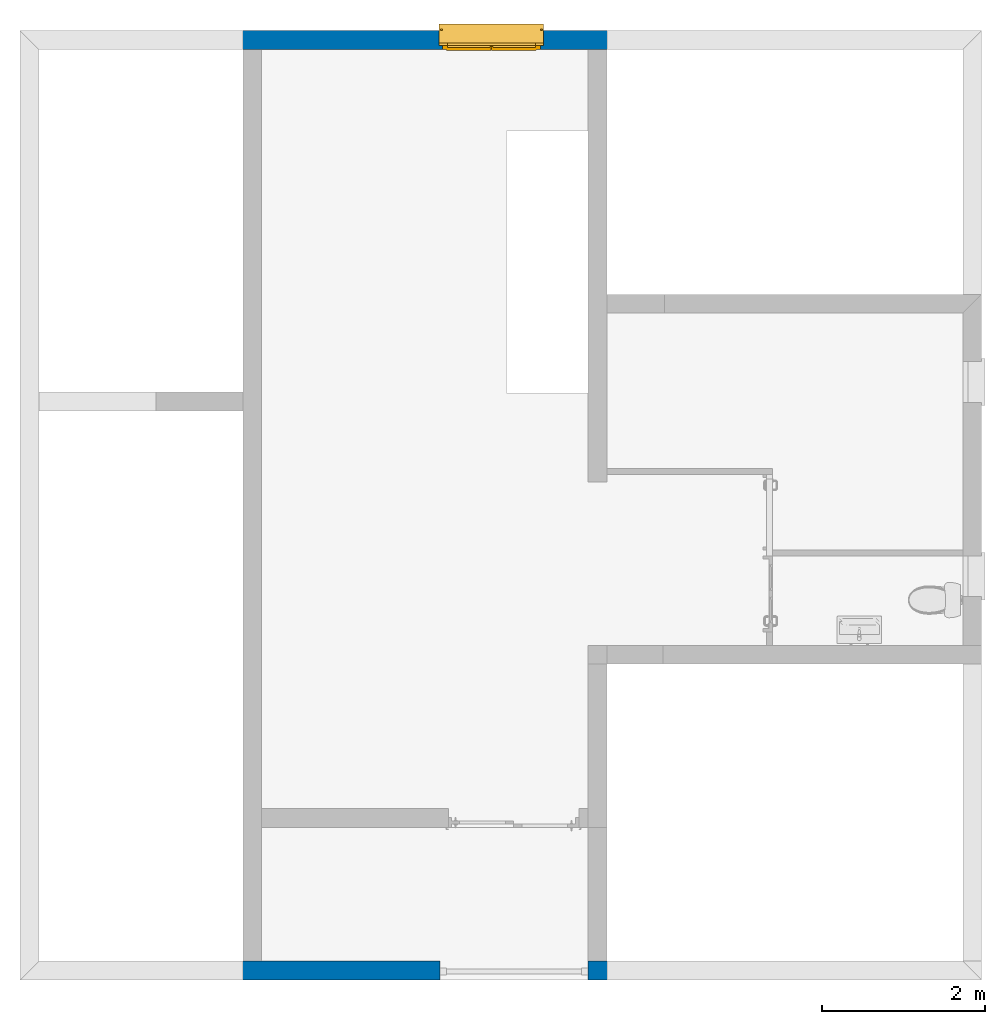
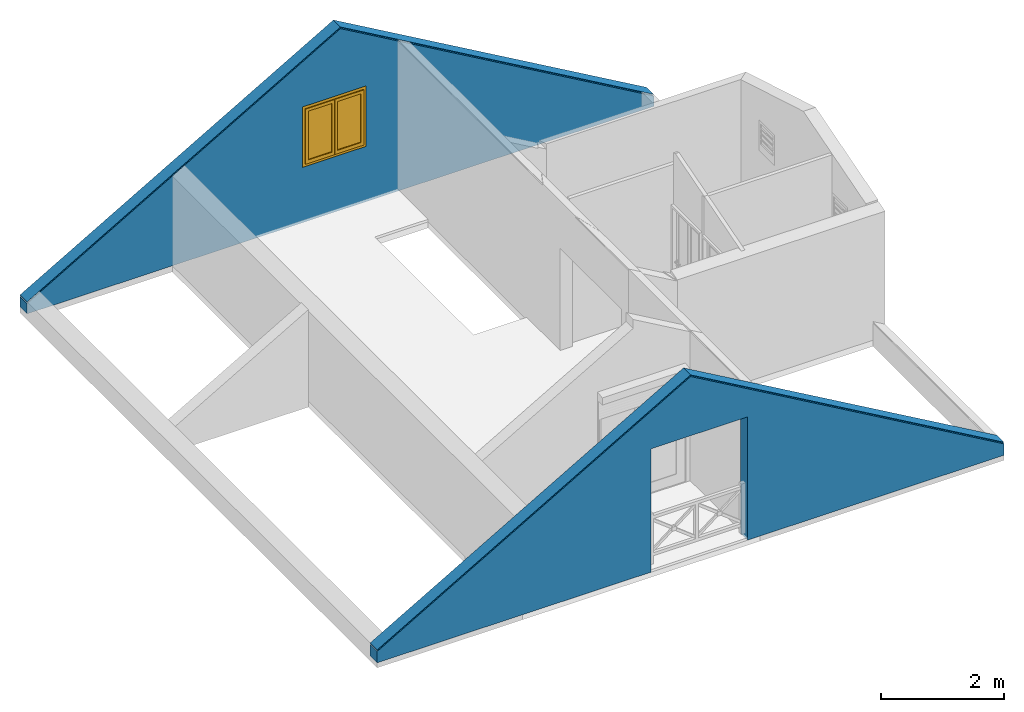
# One storey, part 3 of 8: 2 walls, 1 window, 2 openings.
"""IFC2X3 building model written with IfcOpenShell, lengths in metres."""

from ifc_helpers import new_model, entity, si_unit, converted_unit, derived_unit, money_unit, direction, frame, origin_with_axes, origin_2d_with_axis, place, context, subcontext, project, spatial, polyline, rectangle, outline, extrude, boolean, clip, bounded_halfspace, faceted_brep, source, transform, mapped, material, type_object, element, fill, save


model = new_model("IFC2X3")

# Units and contexts
model_context = context("Model", 3, precision=1e-05, world=origin_with_axes(), true_north=direction((0.0, 1.0)))
body_context = subcontext(model_context, "Body", "Model", "MODEL_VIEW")
ifc_project = project(units=[si_unit("LENGTHUNIT", "METRE"), si_unit("AREAUNIT", "SQUARE_METRE"), si_unit("VOLUMEUNIT", "CUBIC_METRE"), converted_unit("PLANEANGLEUNIT", "DEGREE", entity("IfcPlaneAngleMeasure", 0.0174532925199), si_unit("PLANEANGLEUNIT", "RADIAN"), dimensions=[0, 0, 0, 0, 0, 0, 0]), si_unit("SOLIDANGLEUNIT", "STERADIAN"), money_unit("CHF"), converted_unit("TIMEUNIT", "Year", entity("IfcTimeMeasure", 31556926.0), si_unit("TIMEUNIT", "SECOND"), dimensions=[0, 0, 1, 0, 0, 0, 0]), si_unit("MASSUNIT", "GRAM", prefix="KILO"), si_unit("THERMODYNAMICTEMPERATUREUNIT", "DEGREE_CELSIUS"), si_unit("LUMINOUSINTENSITYUNIT", "LUMEN"), si_unit("ENERGYUNIT", "JOULE", prefix="MEGA"), derived_unit("THERMALCONDUCTANCEUNIT", [(si_unit("POWERUNIT", "WATT"), 1), (si_unit("LENGTHUNIT", "METRE"), -1), (si_unit("THERMODYNAMICTEMPERATUREUNIT", "KELVIN"), -1)]), derived_unit("SPECIFICHEATCAPACITYUNIT", [(si_unit("ENERGYUNIT", "JOULE"), 1), (si_unit("MASSUNIT", "GRAM", prefix="KILO"), -1), (si_unit("THERMODYNAMICTEMPERATUREUNIT", "KELVIN"), -1)]), derived_unit("MASSDENSITYUNIT", [(si_unit("MASSUNIT", "GRAM", prefix="KILO"), 1), (si_unit("VOLUMEUNIT", "CUBIC_METRE"), -1)])], contexts=[model_context])

# Site, building, storey
site_placement = place(None, origin_with_axes())
site = spatial("IfcSite", under=ifc_project, at=site_placement, Name="Site", CompositionType="ELEMENT")
building_placement = place(site_placement, origin_with_axes())
building = spatial("IfcBuilding", under=site, at=building_placement, Name="Bâtiment", CompositionType="ELEMENT")
storey_placement = place(building_placement, frame((0.0, 0.0, 6.0), z_axis=(0.0, 0.0, 1.0), x_axis=(1.0, 0.0, 0.0)))
storey = spatial("IfcBuildingStorey", under=building, at=storey_placement, Name="COMBLES", CompositionType="ELEMENT", Elevation=6.0)

# Wall, opening
ifc_material = material(Name="Hachure solide 2628782308")
wall_type = type_object("IfcWallType", Name="Hachure solide 2628782308 230", PredefinedType="NOTDEFINED")
wall_1_placement = place(storey_placement, frame((84.7835190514, 7.18034105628, -3.39), z_axis=(0.0, 0.0, 1.0), x_axis=(1.0, 0.0, 0.0)))
wall_1 = element("IfcWall", 1, at=wall_1_placement, inside=storey, type_object=wall_type, material=ifc_material, Name="MurExt-011", context=body_context, shape_type="CSG", body=[
    boolean("DIFFERENCE", boolean("DIFFERENCE", boolean("DIFFERENCE", clip(clip(extrude(outline(polyline([(0.0, 0.0), (11.78, 0.0), (11.78, 0.23), (0.0, 0.23), (0.0, 0.0)])), origin_with_axes(), (0.0, 0.0, 1.0), 4.0), bounded_halfspace(frame((3.05706185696, 0.0, 5.29498645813), z_axis=(-0.5, 0.0, -0.866025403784), x_axis=(0.0, 1.0, 0.0)), True, origin_with_axes(), polyline([(5.88999999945, -0.01), (12.0600099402, -0.01), (12.0600099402, 0.24), (5.88999999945, 0.24), (5.88999999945, -0.01)]))), bounded_halfspace(frame((-0.112061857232, 0.0, 0.194096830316), z_axis=(0.5, 0.0, -0.866025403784), x_axis=(0.0, 1.0, 0.0)), True, origin_with_axes(), polyline([(-0.28001000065, -0.01), (5.88999999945, -0.01), (5.88999999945, 0.24), (-0.28001000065, 0.24), (-0.28001000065, -0.01)]))), faceted_brep([(5.145, 0.23, 0.0), (5.145, 0.23, 0.05), (6.96, 0.23, 0.05), (6.96, 0.23, 0.0), (5.145, 0.0, 0.0), (5.145, 0.0, 0.05), (6.96, 0.0, 0.05), (6.96, 0.0, 0.0)], [[[0, 1, 2, 3]], [[1, 0, 4, 5]], [[2, 1, 5, 6]], [[3, 2, 6, 7]], [[4, 0, 3, 7]], [[5, 4, 7, 6]]])), faceted_brep([(0.0, 0.23, 0.249406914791), (5.88999999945, 0.23, 3.65), (11.78, 0.23, 0.249406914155), (11.78, 0.23, 0.226312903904), (5.88999999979, 0.23, 3.62690598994), (0.0, 0.23, 0.22631290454), (0.0, 0.0, 0.249406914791), (5.88999999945, 0.0, 3.65), (11.78, 0.0, 0.249406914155), (11.78, 0.0, 0.226312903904), (5.88999999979, 0.0, 3.62690598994), (0.0, 0.0, 0.22631290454)], [[[0, 1, 2, 3, 4, 5]], [[1, 0, 6, 7]], [[8, 2, 1, 7]], [[2, 8, 9, 3]], [[4, 3, 9, 10]], [[5, 4, 10, 11]], [[6, 0, 5, 11]], [[7, 6, 11, 10, 9, 8]]])), faceted_brep([(11.78, 0.0, 0.258795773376), (11.78, 0.23, 0.258795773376), (11.78, 0.23, 0.270342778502), (11.78, 0.0, 0.270342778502), (5.88999999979, 0.23, 3.65938885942), (5.88999999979, 0.0, 3.65938885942), (0.0, 0.23, 0.258795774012), (0.0, 0.23, 0.270342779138), (5.71519509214, 0.23, 3.57001220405), (5.71519509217, 0.23, 3.57578570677), (5.88999999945, 0.23, 3.67670936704), (6.06480490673, 0.23, 3.57578570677), (6.06480490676, 0.23, 3.57001220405), (6.06456085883, 0.0, 3.57015310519), (6.0645608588, 0.0, 3.5759266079), (5.88999999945, 0.0, 3.67670936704), (5.7154391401, 0.0, 3.5759266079), (5.71543914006, 0.0, 3.57015310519), (0.0, 0.0, 0.270342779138), (0.0, 0.0, 0.258795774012)], [[[0, 1, 2, 3]], [[4, 1, 0, 5]], [[4, 6, 7, 8, 9, 10, 11, 12, 2, 1]], [[3, 2, 12, 13]], [[5, 0, 3, 13, 14, 15, 16, 17, 18, 19]], [[6, 4, 5, 19]], [[6, 19, 18, 7]], [[18, 17, 8, 7]], [[17, 16, 9, 8]], [[10, 9, 16, 15]], [[11, 10, 15, 14]], [[12, 11, 14, 13]]])),
])
opening_1_placement = place(wall_1_placement, frame((6.0525, 0.0, 0.05), z_axis=(0.0, 0.0, 1.0), x_axis=(1.0, 0.0, 0.0)))
element("IfcOpeningElement", 2, at=opening_1_placement, cuts=wall_1, Name="Por-057", context=body_context, shape_type="SweptSolid", body=[
    extrude(rectangle(XDim=1.815, YDim=2.4, at=origin_2d_with_axis()), frame((0.0, -0.23, 1.2), z_axis=(0.0, -1.0, 0.0), x_axis=(1.0, 0.0, 0.0)), (0.0, 0.0, -1.0), 0.69),
])

# Wall, opening, window
wall_2_placement = place(storey_placement, frame((96.5635190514, 18.8103410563, -3.37), z_axis=(0.0, 0.0, 1.0), x_axis=(-1.0, 0.0, 0.0)))
wall_2 = element("IfcWall", 3, at=wall_2_placement, inside=storey, type_object=wall_type, material=ifc_material, Name="MurExt-013", context=body_context, shape_type="CSG", body=[
    boolean("DIFFERENCE", boolean("DIFFERENCE", clip(clip(extrude(outline(polyline([(0.0, 0.0), (11.78, 0.0), (11.78, 0.23), (0.0, 0.23), (0.0, 0.0)])), origin_with_axes(), (0.0, 0.0, 1.0), 4.0), bounded_halfspace(frame((-0.103401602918, 0.0, 0.179096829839), z_axis=(0.5, 0.0, -0.866025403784), x_axis=(0.0, 1.0, 0.0)), True, origin_with_axes(), polyline([(-0.28000991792, -0.01), (5.89000000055, -0.01), (5.89000000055, 0.24), (-0.28000991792, 0.24), (-0.28000991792, -0.01)]))), bounded_halfspace(frame((3.04840160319, 0.0, 5.27998645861), z_axis=(-0.5, 0.0, -0.866025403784), x_axis=(0.0, 1.0, 0.0)), True, origin_with_axes(), polyline([(5.89000000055, -0.01), (12.0600100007, -0.01), (12.0600100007, 0.24), (5.89000000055, 0.24), (5.89000000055, -0.01)]))), faceted_brep([(11.78, 0.0, 0.229406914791), (5.89000000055, 0.0, 3.63), (0.0, 0.0, 0.229406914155), (0.0, 0.0, 0.206312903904), (5.89000000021, 0.0, 3.60690598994), (11.78, 0.0, 0.20631290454), (11.78, 0.23, 0.229406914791), (5.89000000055, 0.23, 3.63), (0.0, 0.23, 0.229406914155), (0.0, 0.23, 0.206312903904), (5.89000000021, 0.23, 3.60690598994), (11.78, 0.23, 0.20631290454)], [[[0, 1, 2, 3, 4, 5]], [[1, 0, 6, 7]], [[8, 2, 1, 7]], [[2, 8, 9, 3]], [[4, 3, 9, 10]], [[5, 4, 10, 11]], [[6, 0, 5, 11]], [[7, 6, 11, 10, 9, 8]]])), faceted_brep([(0.0, 0.23, 0.238795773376), (0.0, 0.0, 0.238795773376), (0.0, 0.0, 0.250342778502), (0.0, 0.23, 0.250342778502), (5.89000000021, 0.0, 3.63938885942), (5.89000000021, 0.23, 3.63938885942), (11.78, 0.0, 0.238795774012), (11.78, 0.0, 0.250342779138), (6.07690119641, 0.0, 3.54302840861), (6.07690119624, 0.0, 3.54880191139), (5.89000000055, 0.0, 3.65670936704), (5.70309880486, 0.0, 3.54880191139), (5.70309880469, 0.0, 3.54302840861), (5.70334285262, 0.23, 3.54316930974), (5.70334285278, 0.23, 3.54894281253), (5.89000000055, 0.23, 3.65670936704), (6.07665714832, 0.23, 3.54894281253), (6.07665714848, 0.23, 3.54316930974), (11.78, 0.23, 0.250342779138), (11.78, 0.23, 0.238795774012)], [[[0, 1, 2, 3]], [[4, 1, 0, 5]], [[4, 6, 7, 8, 9, 10, 11, 12, 2, 1]], [[3, 2, 12, 13]], [[5, 0, 3, 13, 14, 15, 16, 17, 18, 19]], [[6, 4, 5, 19]], [[6, 19, 18, 7]], [[18, 17, 8, 7]], [[17, 16, 9, 8]], [[10, 9, 16, 15]], [[11, 10, 15, 14]], [[12, 11, 14, 13]]])),
])
opening_2_placement = place(wall_2_placement, frame((6.005, 0.0, 1.1), z_axis=(0.0, 0.0, 1.0), x_axis=(1.0, 0.0, 0.0)))
opening_2 = element("IfcOpeningElement", 4, at=opening_2_placement, cuts=wall_2, Name="Fen-010", context=body_context, shape_type="SweptSolid", body=[
    extrude(outline(polyline([(0.6, 0.0), (-0.6, 0.0), (-0.6, -0.9), (0.0, 0.0), (0.6, -0.9), (0.6, 0.0)])), frame((0.0, 0.23, 0.0), z_axis=(0.0, -1.0, 0.0), x_axis=(-1.0, 0.0, 0.0)), (0.0, 0.0, 1.0), 0.46),
    extrude(outline(polyline([(-0.6, -1.2), (0.6, -1.2), (0.6, 0.0), (-0.6, 0.0), (-0.6, -1.2)])), frame((0.0, 0.23, 0.0), z_axis=(0.0, -1.0, 0.0), x_axis=(-1.0, 0.0, 0.0)), (0.0, 0.0, 1.0), 0.46),
    extrude(outline(polyline([(0.6, -0.1), (0.6, 0.001), (-0.6, 0.001), (-0.6, -0.1), (0.6, -0.1)])), frame((0.0, 0.18, 0.0), z_axis=(0.0, 1.0, 0.0), x_axis=(-1.0, 0.0, 0.0)), (0.0, 0.0, -1.0), 0.23),
])
window_style = type_object("IfcWindowStyle", Name="Fenêtre 2v", ConstructionType="NOTDEFINED", OperationType="NOTDEFINED", ParameterTakesPrecedence=False, Sizeable=False)
shared_shape = source(origin_with_axes(), body_context, "Body", "Brep", [
    faceted_brep([(-0.6, -0.23, 0.0), (-0.6, -0.18, 0.0), (-0.54, -0.18, 0.0), (-0.54, -0.23, 0.0), (-0.6, -0.23, 1.2), (-0.6, -0.18, 1.2), (0.6, -0.18, 1.2), (0.6, -0.18, 0.0), (0.54, -0.18, 0.0), (0.54, -0.18, 1.14), (-0.54, -0.18, 1.14), (-0.54, -0.23, 1.14), (0.54, -0.23, 1.14), (0.54, -0.23, 0.0), (0.6, -0.23, 0.0), (0.6, -0.23, 1.2)], [[[0, 1, 2, 3]], [[4, 5, 1, 0]], [[1, 5, 6, 7, 8, 9, 10, 2]], [[3, 2, 10, 11]], [[0, 3, 11, 12, 13, 14, 15, 4]], [[15, 6, 5, 4]], [[14, 7, 6, 15]], [[13, 8, 7, 14]], [[12, 9, 8, 13]], [[11, 10, 9, 12]]]),
    faceted_brep([(0.54, -0.23, 0.0), (0.54, -0.18, 0.0), (0.54, -0.18, 0.06), (0.54, -0.23, 0.06), (-0.54, -0.23, 0.0), (-0.54, -0.18, 0.0), (-0.54, -0.18, 0.06), (-0.54, -0.23, 0.06)], [[[0, 1, 2, 3]], [[4, 5, 1, 0]], [[1, 5, 6, 2]], [[3, 2, 6, 7]], [[0, 3, 7, 4]], [[7, 6, 5, 4]]]),
    faceted_brep([(0.54, -0.15, 0.0), (0.54, -0.15, 0.02), (0.54, -0.18, 0.04), (0.54, -0.18, 0.0), (-0.54, -0.15, 0.0), (-0.54, -0.15, 0.02), (-0.54, -0.18, 0.04), (-0.54, -0.18, 0.0)], [[[0, 1, 2, 3]], [[4, 5, 1, 0]], [[1, 5, 6, 2]], [[3, 2, 6, 7]], [[0, 3, 7, 4]], [[7, 6, 5, 4]]]),
    faceted_brep([(-0.05, -0.2275, 0.12), (-0.05, -0.2275, 1.0899), (-0.49, -0.2275, 1.0899), (-0.49, -0.2275, 0.12), (-0.05, -0.2225, 1.0899), (-0.05, -0.2225, 0.12), (-0.49, -0.2225, 1.0899), (-0.49, -0.2225, 0.12)], [[[0, 1, 2, 3]], [[4, 1, 0, 5]], [[1, 4, 6, 2]], [[6, 7, 3, 2]], [[5, 0, 3, 7]], [[4, 5, 7, 6]]]),
    faceted_brep([(0.05, -0.2225, 1.0899), (0.05, -0.2275, 1.0899), (0.49, -0.2275, 1.0899), (0.49, -0.2225, 1.0899), (0.05, -0.2275, 0.12), (0.05, -0.2225, 0.12), (0.49, -0.2275, 0.12), (0.49, -0.2225, 0.12)], [[[0, 1, 2, 3]], [[4, 1, 0, 5]], [[1, 4, 6, 2]], [[7, 3, 2, 6]], [[5, 0, 3, 7]], [[4, 5, 7, 6]]]),
    faceted_brep([(0.05, -0.245, 1.091), (0.05, -0.245, 1.0899), (0.49, -0.245, 1.0899), (0.49, -0.245, 0.12), (0.548, -0.245, 0.12), (0.548, -0.245, 1.1479), (-0.548, -0.245, 1.1479), (-0.548, -0.245, 0.12), (-0.49, -0.245, 0.12), (-0.49, -0.245, 1.0899), (-0.05, -0.245, 1.0899), (-0.05, -0.245, 1.091), (-0.0025, -0.245, 1.091), (-0.0025, -0.245, 1.14), (0.0025, -0.245, 1.14), (0.0025, -0.245, 1.091), (0.05, -0.205, 1.091), (0.05, -0.205, 1.0899), (0.49, -0.205, 1.0899), (0.49, -0.205, 0.12), (0.54, -0.205, 0.12), (0.54, -0.23, 0.12), (0.55, -0.23, 0.12), (0.55, -0.23, 1.1499), (-0.55, -0.23, 1.1499), (-0.55, -0.23, 0.12), (-0.54, -0.205, 0.12), (-0.49, -0.205, 0.12), (-0.54, -0.23, 0.12), (-0.49, -0.205, 1.0899), (-0.05, -0.205, 1.0899), (-0.05, -0.205, 1.091), (-0.0025, -0.205, 1.091), (-0.0025, -0.205, 1.1399), (-0.0025, -0.23, 1.1399), (-0.0025, -0.23, 1.14), (0.0025, -0.23, 1.14), (0.0025, -0.205, 1.091), (0.0025, -0.23, 1.1399), (0.0025, -0.205, 1.1399), (0.54, -0.205, 1.1399), (0.54, -0.23, 1.1399), (-0.54, -0.23, 1.1399), (-0.54, -0.205, 1.1399)], [[[0, 1, 2, 3, 4, 5, 6, 7, 8, 9, 10, 11, 12, 13, 14, 15]], [[1, 0, 16, 17]], [[1, 17, 18, 2]], [[18, 19, 3, 2]], [[20, 21, 22, 4, 3, 19]], [[5, 4, 22, 23]], [[6, 5, 23, 24]], [[7, 6, 24, 25]], [[26, 27, 8, 7, 25, 28]], [[27, 29, 9, 8]], [[30, 10, 9, 29]], [[11, 10, 30, 31]], [[32, 12, 11, 31]], [[12, 32, 33, 34, 35, 13]], [[13, 35, 36, 14]], [[37, 15, 14, 36, 38, 39]], [[0, 15, 37, 16]], [[16, 37, 39, 40, 20, 19, 18, 17]], [[41, 21, 20, 40]], [[41, 38, 36, 35, 34, 42, 28, 25, 24, 23, 22, 21]], [[31, 30, 29, 27, 26, 43, 33, 32]], [[28, 42, 43, 26]], [[33, 43, 42, 34]], [[38, 41, 40, 39]]]),
    faceted_brep([(0.54, -0.23, 0.12), (0.54, -0.245, 0.12), (0.548, -0.245, 0.12), (0.55, -0.23, 0.12), (0.54, -0.245, 0.06), (0.54, -0.23, 0.06), (0.0025, -0.245, 0.06), (0.0025, -0.245, 0.052), (0.548, -0.245, 0.052), (0.55, -0.23, 0.05), (0.0025, -0.23, 0.05), (0.0025, -0.23, 0.06)], [[[0, 1, 2, 3]], [[4, 1, 0, 5]], [[4, 6, 7, 8, 2, 1]], [[2, 8, 9, 3]], [[5, 0, 3, 9, 10, 11]], [[6, 4, 5, 11]], [[6, 11, 10, 7]], [[10, 9, 8, 7]]]),
    faceted_brep([(-0.0025, -0.23, 0.06), (-0.0025, -0.245, 0.06), (-0.0025, -0.245, 0.052), (-0.0025, -0.23, 0.05), (-0.54, -0.245, 0.06), (-0.54, -0.23, 0.06), (-0.54, -0.245, 0.12), (-0.548, -0.245, 0.12), (-0.548, -0.245, 0.052), (-0.55, -0.23, 0.05), (-0.55, -0.23, 0.12), (-0.54, -0.23, 0.12)], [[[0, 1, 2, 3]], [[4, 1, 0, 5]], [[4, 6, 7, 8, 2, 1]], [[2, 8, 9, 3]], [[5, 0, 3, 9, 10, 11]], [[11, 6, 4, 5]], [[6, 11, 10, 7]], [[8, 7, 10, 9]]]),
    faceted_brep([(0.05, -0.205, 0.12), (0.05, -0.245, 0.12), (0.49, -0.245, 0.12), (0.49, -0.205, 0.12), (0.05, -0.245, 0.119), (0.05, -0.205, 0.119), (0.0025, -0.245, 0.119), (0.0025, -0.245, 0.06), (0.54, -0.245, 0.06), (0.54, -0.245, 0.12), (0.54, -0.205, 0.12), (0.54, -0.205, 0.06), (0.0025, -0.205, 0.06), (0.0025, -0.205, 0.119)], [[[0, 1, 2, 3]], [[4, 1, 0, 5]], [[4, 6, 7, 8, 9, 2, 1]], [[3, 2, 9, 10]], [[5, 0, 3, 10, 11, 12, 13]], [[6, 4, 5, 13]], [[6, 13, 12, 7]], [[12, 11, 8, 7]], [[10, 9, 8, 11]]]),
    faceted_brep([(-0.0025, -0.205, 0.119), (-0.0025, -0.245, 0.119), (-0.0025, -0.245, 0.06), (-0.0025, -0.205, 0.06), (-0.05, -0.245, 0.119), (-0.05, -0.205, 0.119), (-0.05, -0.245, 0.12), (-0.49, -0.245, 0.12), (-0.54, -0.245, 0.12), (-0.54, -0.245, 0.06), (-0.54, -0.205, 0.06), (-0.54, -0.205, 0.12), (-0.49, -0.205, 0.12), (-0.05, -0.205, 0.12)], [[[0, 1, 2, 3]], [[4, 1, 0, 5]], [[4, 6, 7, 8, 9, 2, 1]], [[2, 9, 10, 3]], [[5, 0, 3, 10, 11, 12, 13]], [[13, 6, 4, 5]], [[6, 13, 12, 11, 8, 7]], [[10, 9, 8, 11]]]),
    faceted_brep([(-0.0025, -0.245, 0.119), (-0.0025, -0.245, 1.091), (-0.05, -0.245, 1.091), (-0.05, -0.245, 0.119), (-0.0025, -0.205, 1.091), (-0.0025, -0.205, 0.119), (-0.05, -0.205, 1.091), (-0.05, -0.205, 0.119)], [[[0, 1, 2, 3]], [[4, 1, 0, 5]], [[1, 4, 6, 2]], [[6, 7, 3, 2]], [[5, 0, 3, 7]], [[4, 5, 7, 6]]]),
    faceted_brep([(0.0025, -0.205, 1.091), (0.0025, -0.245, 1.091), (0.05, -0.245, 1.091), (0.05, -0.205, 1.091), (0.0025, -0.245, 0.119), (0.0025, -0.205, 0.119), (0.05, -0.245, 0.119), (0.05, -0.205, 0.119)], [[[0, 1, 2, 3]], [[4, 1, 0, 5]], [[1, 4, 6, 2]], [[7, 3, 2, 6]], [[5, 0, 3, 7]], [[4, 5, 7, 6]]]),
    faceted_brep([(-0.0166666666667, -0.205, 0.06), (-0.0166666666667, -0.195, 0.06), (0.0166666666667, -0.195, 0.06), (0.0166666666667, -0.205, 0.06), (-0.0166666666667, -0.205, 1.14), (-0.0166666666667, -0.195, 1.14), (0.0166666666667, -0.195, 1.14), (0.0166666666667, -0.205, 1.14)], [[[0, 1, 2, 3]], [[4, 5, 1, 0]], [[1, 5, 6, 2]], [[3, 2, 6, 7]], [[0, 3, 7, 4]], [[7, 6, 5, 4]]]),
    faceted_brep([(-0.64, -0.18, -0.1), (0.64, -0.18, -0.1), (0.64, -0.18, 0.0), (-0.64, -0.18, 0.0), (-0.64, 0.06, -0.1), (0.64, 0.06, -0.1), (0.64, 0.06, -0.094), (0.64, 0.07, -0.094), (0.64, 0.07, -0.1), (0.64, 0.08, -0.1), (0.64, 0.08, -0.06), (0.64, -0.13, -0.02), (0.64, -0.134126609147, -0.0188422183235), (0.64, -0.13799671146, -0.0170005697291), (0.64, -0.141497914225, -0.014528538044), (0.64, -0.144528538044, -0.0114979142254), (0.64, -0.147000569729, -0.00799671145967), (0.64, -0.148842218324, -0.00412660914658), (0.64, -0.15, 0.0), (-0.64, -0.15, 0.0), (-0.64, -0.148842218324, -0.00412660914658), (-0.64, -0.147000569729, -0.00799671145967), (-0.64, -0.144528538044, -0.0114979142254), (-0.64, -0.141497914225, -0.014528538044), (-0.64, -0.13799671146, -0.0170005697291), (-0.64, -0.134126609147, -0.0188422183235), (-0.64, -0.13, -0.02), (-0.64, 0.08, -0.06), (-0.64, 0.08, -0.1), (-0.64, 0.07, -0.1), (-0.64, 0.07, -0.094), (-0.64, 0.06, -0.094)], [[[0, 1, 2, 3]], [[4, 5, 1, 0]], [[1, 5, 6, 7, 8, 9, 10, 11, 12, 13, 14, 15, 16, 17, 18, 2]], [[3, 2, 18, 19]], [[0, 3, 19, 20, 21, 22, 23, 24, 25, 26, 27, 28, 29, 30, 31, 4]], [[31, 6, 5, 4]], [[30, 7, 6, 31]], [[29, 8, 7, 30]], [[28, 9, 8, 29]], [[27, 10, 9, 28]], [[26, 11, 10, 27]], [[25, 12, 11, 26]], [[24, 13, 12, 25]], [[23, 14, 13, 24]], [[22, 15, 14, 23]], [[21, 16, 15, 22]], [[20, 17, 16, 21]], [[19, 18, 17, 20]]]),
    faceted_brep([(0.625, 0.0, 1.35), (0.622, 0.0, 1.35), (0.622, 0.0, 1.2), (0.625, 0.0, 1.2), (0.625, 0.13, 1.33862647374), (0.622, 0.13, 1.33862647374), (0.622, 0.13, 1.18), (0.622, 0.127, 1.18), (0.622, 0.021, 1.18), (0.622, 0.021, 1.2), (0.625, 0.021, 1.2), (0.625, 0.021, 1.18), (0.625, 0.127, 1.18), (0.625, 0.13, 1.18)], [[[0, 1, 2, 3]], [[4, 5, 1, 0]], [[1, 5, 6, 7, 8, 9, 2]], [[3, 2, 9, 10]], [[0, 3, 10, 11, 12, 13, 4]], [[13, 6, 5, 4]], [[12, 7, 6, 13]], [[11, 8, 7, 12]], [[10, 9, 8, 11]]]),
    faceted_brep([(-0.622, 0.018, 1.203), (0.622, 0.018, 1.203), (0.622, 0.127, 1.203), (-0.622, 0.127, 1.203), (0.622, 0.018, 1.2), (-0.622, 0.018, 1.2), (0.622, 0.127, 1.2), (0.622, 0.127, 1.18), (0.622, 0.13, 1.18), (0.622, 0.13, 1.33862647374), (0.622, 0.0, 1.35), (0.622, 0.0, 1.34698854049), (0.622, 0.127, 1.33587748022), (-0.622, 0.127, 1.33587748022), (-0.622, 0.0, 1.34698854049), (-0.622, 0.0, 1.35), (-0.622, 0.13, 1.33862647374), (-0.622, 0.13, 1.18), (-0.622, 0.127, 1.18), (-0.622, 0.127, 1.2)], [[[0, 1, 2, 3]], [[4, 1, 0, 5]], [[1, 4, 6, 7, 8, 9, 10, 11, 12, 2]], [[12, 13, 3, 2]], [[5, 0, 3, 13, 14, 15, 16, 17, 18, 19]], [[4, 5, 19, 6]], [[18, 7, 6, 19]], [[17, 8, 7, 18]], [[16, 9, 8, 17]], [[15, 10, 9, 16]], [[11, 10, 15, 14]], [[11, 14, 13, 12]]]),
    faceted_brep([(-0.622, 0.0, 1.35), (-0.625, 0.0, 1.35), (-0.625, 0.0, 1.2), (-0.622, 0.0, 1.2), (-0.622, 0.13, 1.33862647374), (-0.625, 0.13, 1.33862647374), (-0.625, 0.13, 1.18), (-0.625, 0.127, 1.18), (-0.625, 0.021, 1.18), (-0.625, 0.021, 1.2), (-0.622, 0.021, 1.2), (-0.622, 0.021, 1.18), (-0.622, 0.127, 1.18), (-0.622, 0.13, 1.18)], [[[0, 1, 2, 3]], [[4, 5, 1, 0]], [[1, 5, 6, 7, 8, 9, 2]], [[3, 2, 9, 10]], [[0, 3, 10, 11, 12, 13, 4]], [[13, 6, 5, 4]], [[12, 7, 6, 13]], [[11, 8, 7, 12]], [[10, 9, 8, 11]]]),
    faceted_brep([(0.6, 0.021, 1.18), (0.625, 0.021, 1.18), (0.625, 0.021, 0.0), (0.6, 0.021, 0.0), (0.6, 0.018, 1.18), (0.622, 0.018, 1.18), (0.622, 0.003, 1.18), (0.6, 0.003, 1.18), (0.6, 0.0, 1.18), (0.625, 0.0, 1.18), (0.625, 0.0, 0.0), (0.6, 0.0, 0.0), (0.6, 0.003, 0.0), (0.622, 0.003, 0.0), (0.622, 0.018, 0.0), (0.6, 0.018, 0.0)], [[[0, 1, 2, 3]], [[0, 4, 5, 6, 7, 8, 9, 1]], [[1, 9, 10, 2]], [[3, 2, 10, 11, 12, 13, 14, 15]], [[4, 0, 3, 15]], [[5, 4, 15, 14]], [[6, 5, 14, 13]], [[7, 6, 13, 12]], [[8, 7, 12, 11]], [[9, 8, 11, 10]]]),
    faceted_brep([(0.6, 0.003, 0.003), (0.6, 0.018, 0.003), (0.6, 0.018, 0.0), (0.6, 0.003, 0.0), (0.622, 0.003, 0.003), (0.622, 0.018, 0.003), (0.622, 0.018, 0.0), (0.622, 0.003, 0.0)], [[[0, 1, 2, 3]], [[0, 4, 5, 1]], [[1, 5, 6, 2]], [[3, 2, 6, 7]], [[4, 0, 3, 7]], [[5, 4, 7, 6]]]),
    faceted_brep([(0.6, 0.021, 1.2), (0.625, 0.021, 1.2), (0.625, 0.021, 1.18), (0.6, 0.021, 1.18), (0.6, 0.018, 1.2), (0.622, 0.018, 1.2), (0.622, 0.003, 1.2), (0.6, 0.003, 1.2), (0.6, 0.0, 1.2), (0.625, 0.0, 1.2), (0.625, 0.0, 1.18), (0.6, 0.0, 1.18), (0.6, 0.003, 1.18), (0.622, 0.003, 1.18), (0.622, 0.018, 1.18), (0.6, 0.018, 1.18)], [[[0, 1, 2, 3]], [[0, 4, 5, 6, 7, 8, 9, 1]], [[1, 9, 10, 2]], [[3, 2, 10, 11, 12, 13, 14, 15]], [[4, 0, 3, 15]], [[5, 4, 15, 14]], [[6, 5, 14, 13]], [[7, 6, 13, 12]], [[8, 7, 12, 11]], [[9, 8, 11, 10]]]),
    faceted_brep([(-0.6, 0.021, 1.18), (-0.6, 0.021, 0.0), (-0.625, 0.021, 0.0), (-0.625, 0.021, 1.18), (-0.6, 0.018, 1.18), (-0.6, 0.018, 0.0), (-0.622, 0.018, 0.0), (-0.622, 0.003, 0.0), (-0.6, 0.003, 0.0), (-0.6, 0.0, 0.0), (-0.625, 0.0, 0.0), (-0.625, 0.0, 1.18), (-0.6, 0.0, 1.18), (-0.6, 0.003, 1.18), (-0.622, 0.003, 1.18), (-0.622, 0.018, 1.18)], [[[0, 1, 2, 3]], [[4, 5, 1, 0]], [[1, 5, 6, 7, 8, 9, 10, 2]], [[3, 2, 10, 11]], [[0, 3, 11, 12, 13, 14, 15, 4]], [[15, 6, 5, 4]], [[14, 7, 6, 15]], [[13, 8, 7, 14]], [[12, 9, 8, 13]], [[11, 10, 9, 12]]]),
    faceted_brep([(-0.6, 0.003, 0.003), (-0.6, 0.003, 0.0), (-0.6, 0.018, 0.0), (-0.6, 0.018, 0.003), (-0.622, 0.003, 0.003), (-0.622, 0.003, 0.0), (-0.622, 0.018, 0.0), (-0.622, 0.018, 0.003)], [[[0, 1, 2, 3]], [[4, 5, 1, 0]], [[1, 5, 6, 2]], [[3, 2, 6, 7]], [[0, 3, 7, 4]], [[7, 6, 5, 4]]]),
    faceted_brep([(-0.6, 0.021, 1.2), (-0.6, 0.021, 1.18), (-0.625, 0.021, 1.18), (-0.625, 0.021, 1.2), (-0.6, 0.018, 1.2), (-0.6, 0.018, 1.18), (-0.622, 0.018, 1.18), (-0.622, 0.003, 1.18), (-0.6, 0.003, 1.18), (-0.6, 0.0, 1.18), (-0.625, 0.0, 1.18), (-0.625, 0.0, 1.2), (-0.6, 0.0, 1.2), (-0.6, 0.003, 1.2), (-0.622, 0.003, 1.2), (-0.622, 0.018, 1.2)], [[[0, 1, 2, 3]], [[4, 5, 1, 0]], [[1, 5, 6, 7, 8, 9, 10, 2]], [[3, 2, 10, 11]], [[0, 3, 11, 12, 13, 14, 15, 4]], [[15, 6, 5, 4]], [[14, 7, 6, 15]], [[13, 8, 7, 14]], [[12, 9, 8, 13]], [[11, 10, 9, 12]]]),
    faceted_brep([(0.622, 0.0113089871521, 1.26006647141), (0.622, 0.0137113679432, 1.25110066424), (0.622, 0.0176341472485, 1.24268823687), (0.622, 0.0229581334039, 1.23508479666), (0.622, 0.0295215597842, 1.22852137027), (0.622, 0.037125, 1.22319738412), (0.622, 0.0455374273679, 1.21927460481), (0.622, 0.0545032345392, 1.21687222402), (0.622, 0.06375, 1.21606323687), (0.622, 0.0729967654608, 1.21687222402), (0.622, 0.0819625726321, 1.21927460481), (0.622, 0.090375, 1.22319738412), (0.622, 0.0979784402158, 1.22852137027), (0.622, 0.104541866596, 1.23508479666), (0.622, 0.109865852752, 1.24268823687), (0.622, 0.113788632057, 1.25110066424), (0.622, 0.116191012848, 1.26006647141), (0.622, 0.117, 1.26931323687), (0.622, 0.116191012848, 1.27856000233), (0.622, 0.113788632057, 1.2875258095), (0.622, 0.109865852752, 1.29593823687), (0.622, 0.104541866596, 1.30354167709), (0.622, 0.0979784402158, 1.31010510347), (0.622, 0.090375, 1.31542908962), (0.622, 0.0819625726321, 1.31935186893), (0.622, 0.0729967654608, 1.32175424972), (0.622, 0.06375, 1.32256323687), (0.622, 0.0545032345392, 1.32175424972), (0.622, 0.0455374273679, 1.31935186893), (0.622, 0.037125, 1.31542908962), (0.622, 0.0295215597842, 1.31010510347), (0.622, 0.0229581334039, 1.30354167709), (0.622, 0.0176341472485, 1.29593823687), (0.622, 0.0137113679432, 1.2875258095), (0.622, 0.0113089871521, 1.27856000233), (0.622, 0.0105, 1.26931323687), (-0.622, 0.0113089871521, 1.26006647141), (-0.622, 0.0137113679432, 1.25110066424), (-0.622, 0.0176341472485, 1.24268823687), (-0.622, 0.0229581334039, 1.23508479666), (-0.622, 0.0295215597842, 1.22852137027), (-0.622, 0.037125, 1.22319738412), (-0.622, 0.0455374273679, 1.21927460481), (-0.622, 0.0545032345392, 1.21687222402), (-0.622, 0.06375, 1.21606323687), (-0.622, 0.0729967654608, 1.21687222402), (-0.622, 0.0819625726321, 1.21927460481), (-0.622, 0.090375, 1.22319738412), (-0.622, 0.0979784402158, 1.22852137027), (-0.622, 0.104541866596, 1.23508479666), (-0.622, 0.109865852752, 1.24268823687), (-0.622, 0.113788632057, 1.25110066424), (-0.622, 0.116191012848, 1.26006647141), (-0.622, 0.117, 1.26931323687), (-0.622, 0.116191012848, 1.27856000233), (-0.622, 0.113788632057, 1.2875258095), (-0.622, 0.109865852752, 1.29593823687), (-0.622, 0.104541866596, 1.30354167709), (-0.622, 0.0979784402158, 1.31010510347), (-0.622, 0.090375, 1.31542908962), (-0.622, 0.0819625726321, 1.31935186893), (-0.622, 0.0729967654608, 1.32175424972), (-0.622, 0.06375, 1.32256323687), (-0.622, 0.0545032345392, 1.32175424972), (-0.622, 0.0455374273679, 1.31935186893), (-0.622, 0.037125, 1.31542908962), (-0.622, 0.0295215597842, 1.31010510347), (-0.622, 0.0229581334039, 1.30354167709), (-0.622, 0.0176341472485, 1.29593823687), (-0.622, 0.0137113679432, 1.2875258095), (-0.622, 0.0113089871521, 1.27856000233), (-0.622, 0.0105, 1.26931323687)], [[[0, 1, 2, 3, 4, 5, 6, 7, 8, 9, 10, 11, 12, 13, 14, 15, 16, 17, 18, 19, 20, 21, 22, 23, 24, 25, 26, 27, 28, 29, 30, 31, 32, 33, 34, 35]], [[1, 0, 36, 37]], [[2, 1, 37, 38]], [[3, 2, 38, 39]], [[4, 3, 39, 40]], [[5, 4, 40, 41]], [[6, 5, 41, 42]], [[7, 6, 42, 43]], [[8, 7, 43, 44]], [[9, 8, 44, 45]], [[10, 9, 45, 46]], [[11, 10, 46, 47]], [[12, 11, 47, 48]], [[13, 12, 48, 49]], [[14, 13, 49, 50]], [[15, 14, 50, 51]], [[16, 15, 51, 52]], [[17, 16, 52, 53]], [[18, 17, 53, 54]], [[19, 18, 54, 55]], [[20, 19, 55, 56]], [[21, 20, 56, 57]], [[22, 21, 57, 58]], [[23, 22, 58, 59]], [[24, 23, 59, 60]], [[25, 24, 60, 61]], [[26, 25, 61, 62]], [[27, 26, 62, 63]], [[28, 27, 63, 64]], [[29, 28, 64, 65]], [[30, 29, 65, 66]], [[31, 30, 66, 67]], [[32, 31, 67, 68]], [[33, 32, 68, 69]], [[34, 33, 69, 70]], [[35, 34, 70, 71]], [[0, 35, 71, 36]], [[36, 71, 70, 69, 68, 67, 66, 65, 64, 63, 62, 61, 60, 59, 58, 57, 56, 55, 54, 53, 52, 51, 50, 49, 48, 47, 46, 45, 44, 43, 42, 41, 40, 39, 38, 37]]]),
    faceted_brep([(-0.622, 0.00966666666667, 1.26931323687), (-0.622, 0.00966666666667, 1.26666666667), (0.622, 0.00966666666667, 1.26666666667), (0.622, 0.00966666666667, 1.26931323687), (-0.622, 0.0146666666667, 1.26931323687), (-0.622, 0.0146666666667, 1.26666666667), (-0.622, 0.013, 1.25), (-0.622, 0.008, 1.25), (0.622, 0.008, 1.25), (0.622, 0.013, 1.25), (0.622, 0.0146666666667, 1.26666666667), (0.622, 0.0146666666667, 1.26931323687)], [[[0, 1, 2, 3]], [[4, 5, 6, 7, 1, 0]], [[2, 1, 7, 8]], [[3, 2, 8, 9, 10, 11]], [[3, 11, 4, 0]], [[10, 5, 4, 11]], [[9, 6, 5, 10]], [[8, 7, 6, 9]]]),
    faceted_brep([(0.622, 0.008, 1.25), (-0.622, 0.008, 1.25), (-0.622, 0.00966666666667, 1.23333333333), (0.622, 0.00966666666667, 1.23333333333), (0.622, 0.013, 1.25), (-0.622, 0.013, 1.25), (-0.622, 0.0146666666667, 1.23333333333), (-0.622, 0.0146666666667, 1.21666666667), (-0.622, 0.013, 1.2), (-0.622, 0.008, 1.2), (-0.622, 0.00966666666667, 1.21666666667), (0.622, 0.00966666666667, 1.21666666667), (0.622, 0.008, 1.2), (0.622, 0.013, 1.2), (0.622, 0.0146666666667, 1.21666666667), (0.622, 0.0146666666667, 1.23333333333)], [[[0, 1, 2, 3]], [[4, 5, 1, 0]], [[1, 5, 6, 7, 8, 9, 10, 2]], [[3, 2, 10, 11]], [[0, 3, 11, 12, 13, 14, 15, 4]], [[15, 6, 5, 4]], [[14, 7, 6, 15]], [[13, 8, 7, 14]], [[12, 9, 8, 13]], [[11, 10, 9, 12]]]),
])
window_placement = place(opening_2_placement, frame((0.6, 0.0, 0.0), z_axis=(0.0, 0.0, 1.0), x_axis=(-1.0, 0.0, 0.0)))
window = element("IfcWindow", 5, at=window_placement, inside=storey, type_object=window_style, Name="Fen-010", OverallHeight=1.2, OverallWidth=1.2, context=body_context, shape_type="MappedRepresentation", body=[
    mapped(shared_shape, transform((0.6, 0.0, 0.0))),
])
fill(opening_2, window)

save(model, "model.ifc")
